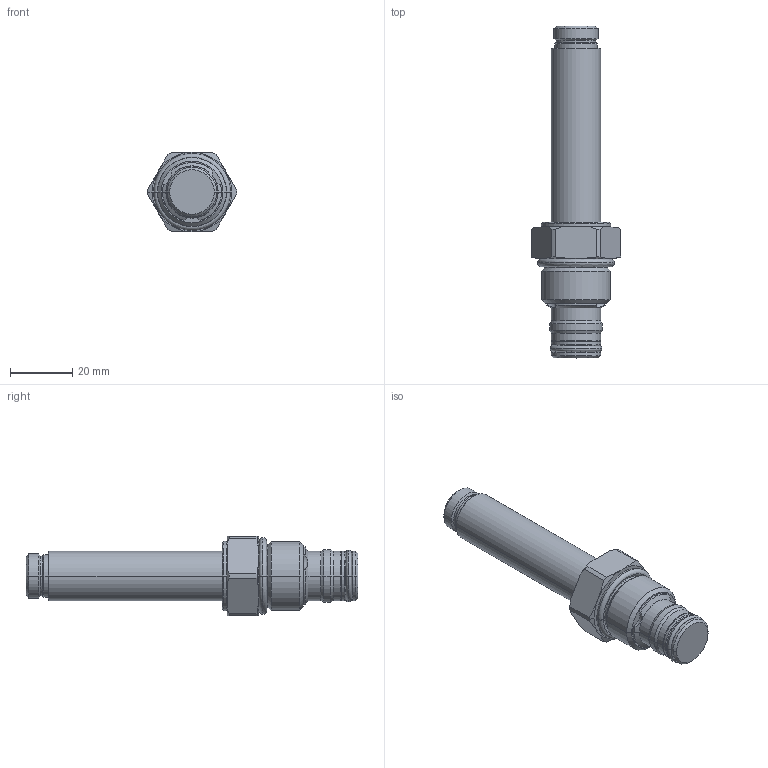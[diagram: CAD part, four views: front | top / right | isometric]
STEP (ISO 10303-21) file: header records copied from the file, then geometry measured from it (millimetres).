
FILE_DESCRIPTION((''),'2;1');
FILE_NAME('PRT0025','2009-03-25T',('JCS'),(''),'PRO/ENGINEER BY PARAMETRIC TECHNOLOGY CORPORATION, 2008510','PRO/ENGINEER BY PARAMETRIC TECHNOLOGY CORPORATION, 2008510','');
FILE_SCHEMA(('CONFIG_CONTROL_DESIGN'));
Length unit declared in the file: inch
Products named in the file (1): PRT0025
Bounding box: 28.57 x 106.27 x 25.4 mm (x, y, z)
Volume: 27269 mm3; surface area: 8212.1 mm2
Topology: 4 solids, 4 shells, 137 faces, 295 edges, 166 vertices
Faces by surface type: cone 43, cylinder 37, torus 24, revolution 16, plane 14, sphere 3
Entity records: 4159 total; most frequent: CARTESIAN_POINT 1127, DIRECTION 673, ORIENTED_EDGE 590, EDGE_CURVE 295, AXIS2_PLACEMENT_3D 290, CIRCLE 169, VERTEX_POINT 166, EDGE_LOOP 143
